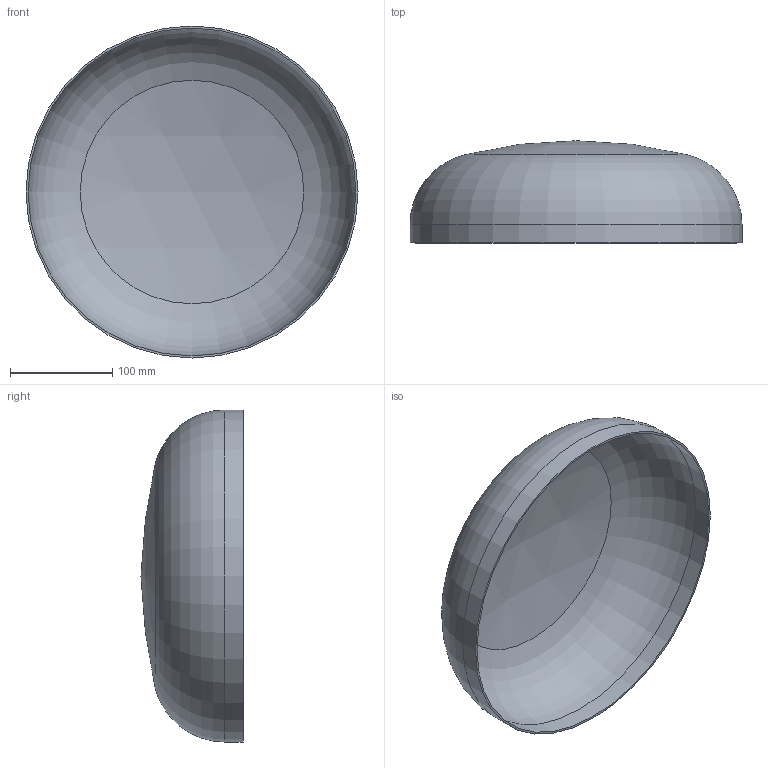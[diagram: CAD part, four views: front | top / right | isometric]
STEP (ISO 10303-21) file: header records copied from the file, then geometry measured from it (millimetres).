
FILE_DESCRIPTION (( 'STEP AP214' ), '1' );
FILE_NAME ('26001.SP.01.001 Çàãëóøêà ñòàëüíàÿ ô325.STEP', '2026-05-21T12:40:43', ( '' ), ( '' ), 'SwSTEP 2.0', 'SolidWorks 2025', '' );
FILE_SCHEMA (( 'AUTOMOTIVE_DESIGN' ));
Length unit declared in the file: millimetre
Products named in the file (1): 26001.SP.01.001 Заглушка стальная ф325
Bounding box: 325 x 100 x 325 mm (x, y, z)
Volume: 277365.3 mm3; surface area: 279378.4 mm2
Topology: 1 solids, 1 shells, 7 faces, 10 edges, 6 vertices
Faces by surface type: cylinder 2, torus 2, sphere 2, plane 1
Full cylindrical faces by diameter (mm): 321 x1, 325 x1
Entity records: 157 total; most frequent: DIRECTION 28, CARTESIAN_POINT 20, AXIS2_PLACEMENT_3D 14, ORIENTED_EDGE 12, EDGE_LOOP 12, FACE_OUTER_BOUND 11, ADVANCED_FACE 7, CIRCLE 6
